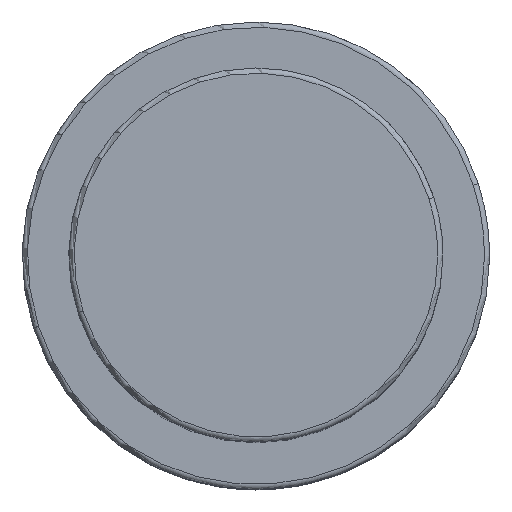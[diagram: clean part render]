
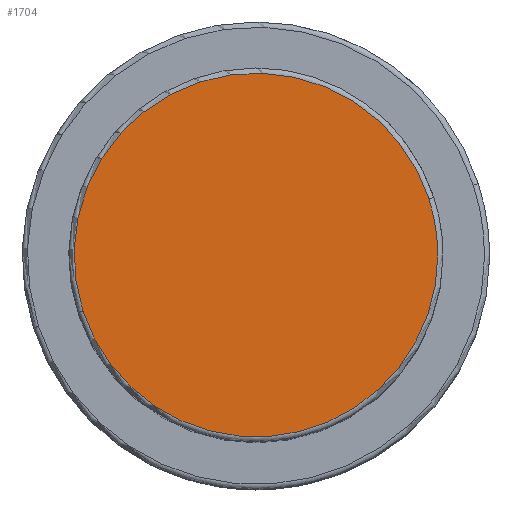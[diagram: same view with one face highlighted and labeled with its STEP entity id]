
A CAD part, top view. The second image highlights one B-rep face of the part: STEP entity #1704.
In plain terms, the highlighted planar face has unit normal (0, 0, 1).
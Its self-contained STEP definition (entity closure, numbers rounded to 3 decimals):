
#1670=CARTESIAN_POINT('',(17.5,0.0,68.0));
#1671=VERTEX_POINT('',#1670);
#1672=CARTESIAN_POINT('',(16.643,5.408,68.0));
#1673=VERTEX_POINT('',#1672);
#1674=CARTESIAN_POINT('',(0.0,0.0,68.0));
#1675=DIRECTION('',(0.0,0.0,1.0));
#1676=DIRECTION('',(1.0,0.0,0.0));
#1677=AXIS2_PLACEMENT_3D('',#1674,#1675,#1676);
#1678=CIRCLE('',#1677,17.5);
#1679=EDGE_CURVE('no 1896',#1671,#1673,#1678,.T.);
#1680=ORIENTED_EDGE('',*,*,#1679,.T.);
#1681=CARTESIAN_POINT('',(-16.643,-5.408,68.0));
#1682=VERTEX_POINT('',#1681);
#1683=CARTESIAN_POINT('',(0.0,0.0,68.0));
#1684=DIRECTION('',(0.0,0.0,1.0));
#1685=DIRECTION('',(1.0,0.0,0.0));
#1686=AXIS2_PLACEMENT_3D('',#1683,#1684,#1685);
#1687=CIRCLE('',#1686,17.5);
#1688=EDGE_CURVE('no 1902',#1673,#1682,#1687,.T.);
#1689=ORIENTED_EDGE('',*,*,#1688,.T.);
#1690=CARTESIAN_POINT('',(0.0,0.0,68.0));
#1691=DIRECTION('',(0.0,0.0,1.0));
#1692=DIRECTION('',(1.0,0.0,0.0));
#1693=AXIS2_PLACEMENT_3D('',#1690,#1691,#1692);
#1694=CIRCLE('',#1693,17.5);
#1695=EDGE_CURVE('no 1906',#1682,#1671,#1694,.T.);
#1696=ORIENTED_EDGE('',*,*,#1695,.T.);
#1697=EDGE_LOOP('',(#1680,#1689,#1696));
#1698=FACE_OUTER_BOUND('',#1697,.T.);
#1699=CARTESIAN_POINT('',(0.0,0.0,68.0));
#1700=DIRECTION('',(0.0,0.0,1.0));
#1701=DIRECTION('',(1.0,0.0,0.0));
#1702=AXIS2_PLACEMENT_3D('',#1699,#1700,#1701);
#1703=PLANE('',#1702);
#1704=ADVANCED_FACE('no 1887',(#1698),#1703,.T.);
